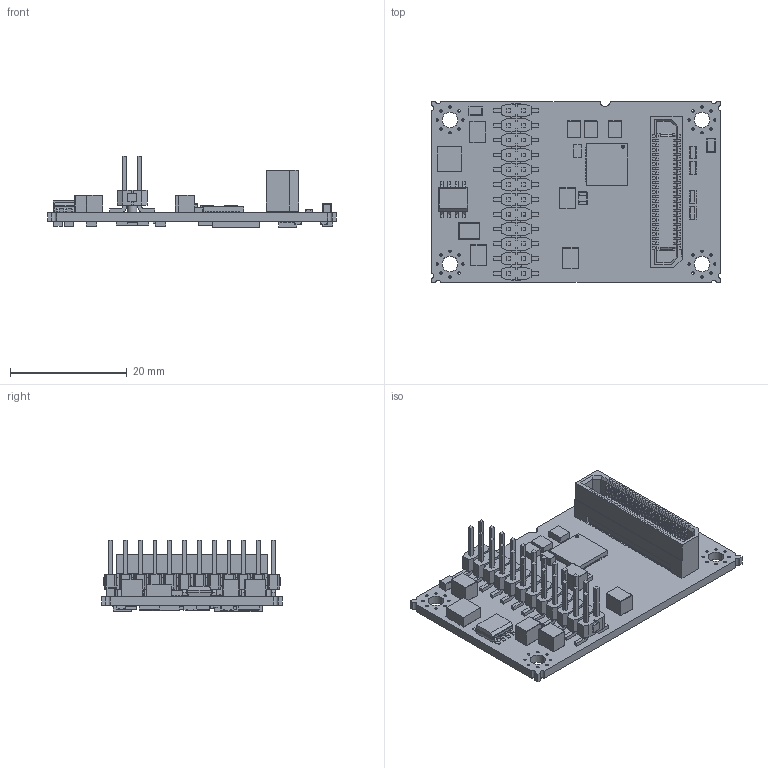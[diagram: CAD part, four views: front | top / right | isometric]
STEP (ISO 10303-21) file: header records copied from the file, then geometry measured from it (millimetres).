
FILE_DESCRIPTION((''),'2;1');
FILE_NAME('854796_ESCON2_MODULE_60-12','2025-05-28T10:39:56',('mmagvisi'),(''),'CREO PARAMETRIC BY PTC INC, 2023092','CREO PARAMETRIC BY PTC INC, 2023092','');
FILE_SCHEMA(('CONFIG_CONTROL_DESIGN','SHAPE_APPEARANCE_LAYERS_GROUPS'));
Products named in the file (1): 854796_ESCON2_MODULE_60-12
Bounding box: 49.5 x 31 x 12.25 mm (x, y, z)
Volume: 3777.4 mm3; surface area: 6555.4 mm2
Topology: 1 solids, 1 shells, 4050 faces, 11567 edges, 7440 vertices
Faces by surface type: plane 2731, cylinder 1083, sphere 216, torus 16, cone 4
Entity records: 166688 total; most frequent: CARTESIAN_POINT 28412, ORIENTED_EDGE 22630, DIRECTION 19893, PRESENTATION_STYLE_ASSIGNMENT 11316, STYLED_ITEM 11316, CURVE_STYLE 11315, EDGE_CURVE 11315, VECTOR 8841
